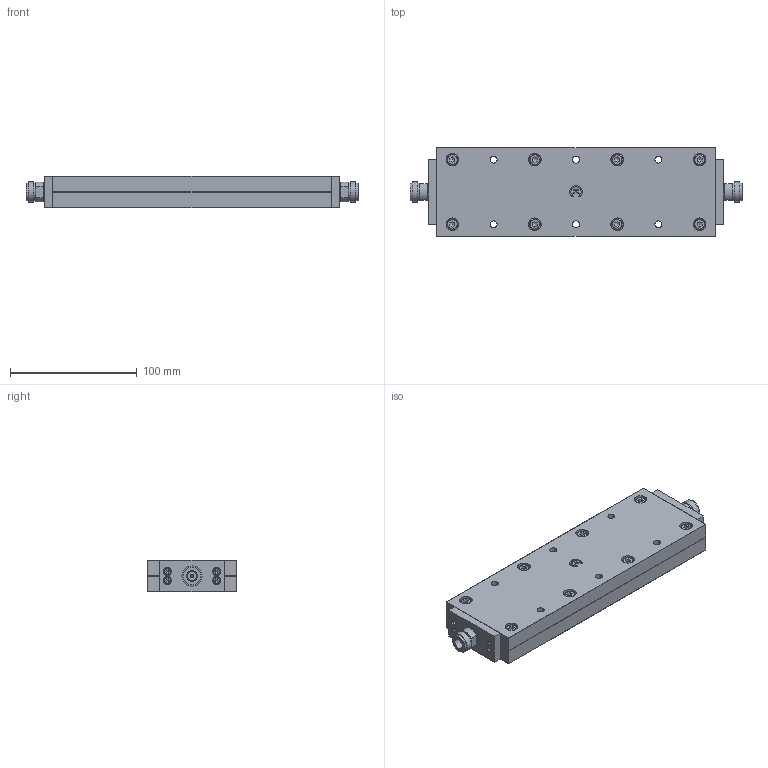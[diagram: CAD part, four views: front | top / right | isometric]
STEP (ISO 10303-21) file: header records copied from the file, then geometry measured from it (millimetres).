
FILE_DESCRIPTION(('STEP AP203'), '1');
FILE_NAME('ÏÐ1-25-500-3-IIIFF', '', ('UNSPECIFIED'), ('UNSPECIFIED'), 'C3D Converter', 'C3D Toolkit', '');
FILE_SCHEMA(('CONFIG_CONTROL_DESIGN'));
Length unit declared in the file: millimetre
Products named in the file (10): -01; #741
Assembly tree (22 placements, depth 2):
  (unnamed)
    (unnamed)
    (unnamed)
    (unnamed)
    (unnamed)  x4
    (unnamed)  x8
    (unnamed)
    -01
    #741  x4
    -01
Bounding box: 262 x 70 x 25 mm (x, y, z)
Volume: 399408.1 mm3; surface area: 99157 mm2
Topology: 22 solids, 22 shells, 460 faces, 1010 edges, 646 vertices
Faces by surface type: plane 262, cylinder 124, cone 42, torus 32
Full cylindrical faces by diameter (mm): 1.66 x2, 2.459 x4, 2.5 x4, 3 x16, 3.04 x2, 4.2 x8, 5 x8, 5.5 x28, 6.5 x8, 7 x2, 8.06 x2, 8.5 x8, 10 x8, 11.6 x2, 14 x4, 15.87 x2, 16 x4
Entity records: 8590 total; most frequent: CARTESIAN_POINT 1791, DIRECTION 1232, ORIENTED_EDGE 924, AXIS2_PLACEMENT_3D 503, EDGE_LOOP 488, EDGE_CURVE 462, VERTEX_POINT 362, FACE_BOUND 288
